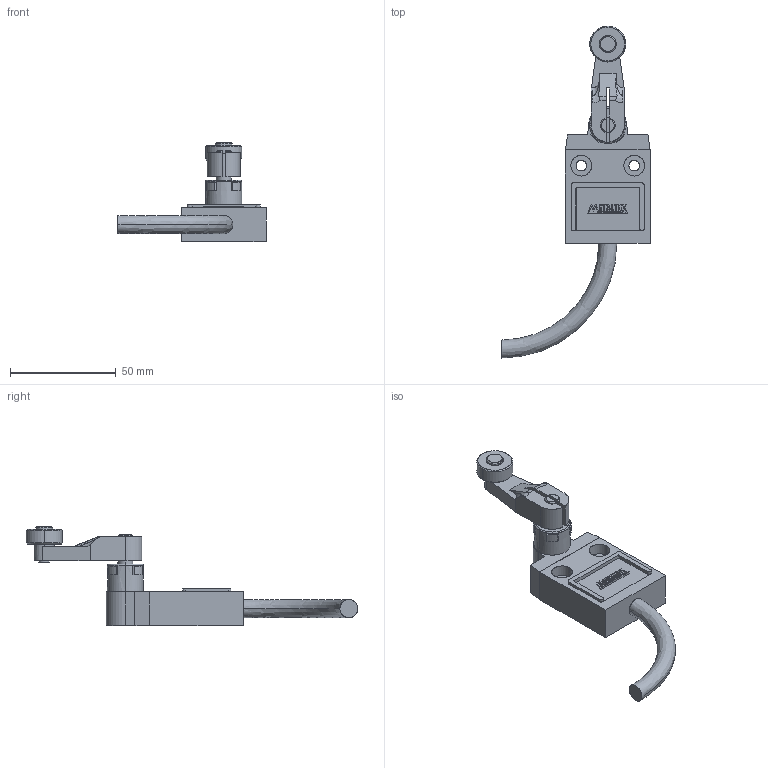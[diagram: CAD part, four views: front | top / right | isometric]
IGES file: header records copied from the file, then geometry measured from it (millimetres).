
Start section: SolidWorks IGES file using analytic representation for surfaces
Global section: file name: D:\X - Arquivos\PROEX\Empresas\P11 - METALTEX\01 - Produtos\IGES\6ª remessa\6ª etapa\IGES\TZ-3104.IGS; native system: SolidWorks 2012; preprocessor: SolidWorks 2012; author: Usuario; date: 190524.105314; units: millimetre
Bounding box: 70 x 156.75 x 46.8 mm (x, y, z)
Surface area: 15985.5 mm2 (no closed solid volume)
Topology: 0 solids, 0 shells, 311 faces, 3177 edges, 3177 vertices
Faces by surface type: bspline 236, revolution 75
